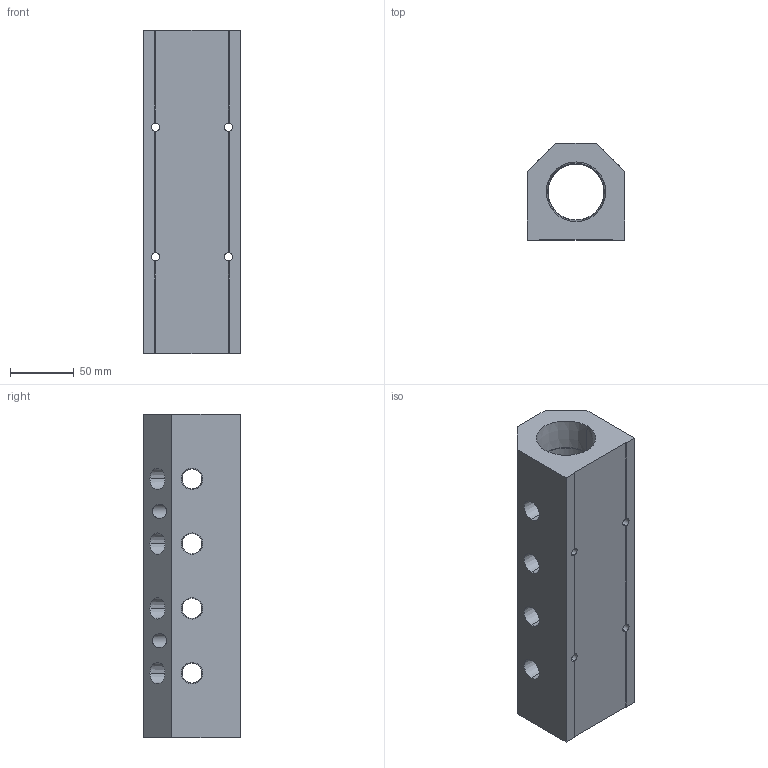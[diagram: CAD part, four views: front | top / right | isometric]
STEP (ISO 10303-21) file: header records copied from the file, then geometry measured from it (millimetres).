
FILE_DESCRIPTION (( 'STEP AP214' ), '1' );
FILE_NAME ('ALM4ABCDE-N6N24-254B.step', '2022-02-07T09:08:15', ( '' ), ( '' ), 'SwSTEP 2.0', 'SolidWorks 2020', '' );
FILE_SCHEMA (( 'AUTOMOTIVE_DESIGN' ));
Length unit declared in the file: millimetre
Products named in the file (1): ALM4ABCDE-N6N24-254B
Bounding box: 76.2 x 76.2 x 254 mm (x, y, z)
Volume: 870798.2 mm3; surface area: 127900.9 mm2
Topology: 1 solids, 1 shells, 386 faces, 1035 edges, 682 vertices
Faces by surface type: plane 258, bspline 66, cone 44, cylinder 18
Entity records: 21723 total; most frequent: CARTESIAN_POINT 8766, ORIENTED_EDGE 2070, DIRECTION 1565, EDGE_CURVE 1035, VECTOR 771, LINE 771, VERTEX_POINT 682, EDGE_LOOP 467
